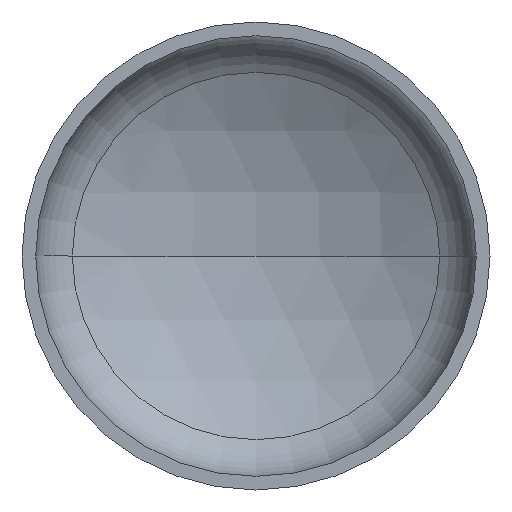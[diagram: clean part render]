
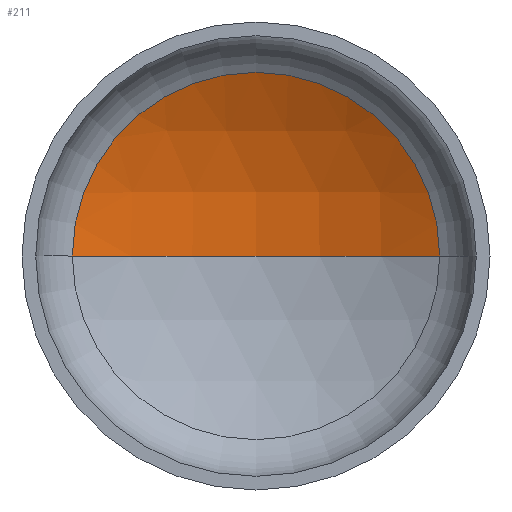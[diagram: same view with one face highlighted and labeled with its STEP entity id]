
A CAD part, front view. The second image highlights one B-rep face of the part: STEP entity #211.
In plain terms, the highlighted spherical face has radius 1040 mm.
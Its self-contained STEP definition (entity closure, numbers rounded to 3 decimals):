
#5 = CARTESIAN_POINT ( 'NONE',  ( 0., 294.291, 0. ) ) ;
#11 = DIRECTION ( 'NONE',  ( -1., 0., 0. ) ) ;
#12 = CARTESIAN_POINT ( 'NONE',  ( 0., -612.022, 0. ) ) ;
#17 = EDGE_LOOP ( 'NONE', ( #126, #49, #133 ) ) ;
#22 = AXIS2_PLACEMENT_3D ( 'NONE', #242, #243, #95 ) ;
#32 = AXIS2_PLACEMENT_3D ( 'NONE', #227, #391, #195 ) ;
#34 = AXIS2_PLACEMENT_3D ( 'NONE', #12, #160, #11 ) ;
#37 = AXIS2_PLACEMENT_3D ( 'NONE', #5, #224, #408 ) ;
#49 = ORIENTED_EDGE ( 'NONE', *, *, #103, .T. ) ;
#52 = CARTESIAN_POINT ( 'NONE',  ( 510.095, 294.291, 0. ) ) ;
#71 = VERTEX_POINT ( 'NONE', #287 ) ;
#83 = VERTEX_POINT ( 'NONE', #228 ) ;
#95 = DIRECTION ( 'NONE',  ( -1., 0., 0. ) ) ;
#100 = EDGE_CURVE ( 'NONE', #108, #71, #318, .T. ) ;
#103 = EDGE_CURVE ( 'NONE', #83, #108, #256, .T. ) ;
#104 = EDGE_CURVE ( 'NONE', #83, #71, #196, .T. ) ;
#108 = VERTEX_POINT ( 'NONE', #52 ) ;
#126 = ORIENTED_EDGE ( 'NONE', *, *, #104, .F. ) ;
#133 = ORIENTED_EDGE ( 'NONE', *, *, #100, .T. ) ;
#160 = DIRECTION ( 'NONE',  ( 0., 0., -1. ) ) ;
#182 = FACE_OUTER_BOUND ( 'NONE', #17, .T. ) ;
#189 = SPHERICAL_SURFACE ( 'NONE', #22, 1040. ) ;
#195 = DIRECTION ( 'NONE',  ( 1., 0., 0. ) ) ;
#196 = CIRCLE ( 'NONE', #32, 1040. ) ;
#211 = ADVANCED_FACE ( 'NONE', ( #182 ), #189, .F. ) ;
#224 = DIRECTION ( 'NONE',  ( 0., -1., 0. ) ) ;
#227 = CARTESIAN_POINT ( 'NONE',  ( 0., -612.022, 0. ) ) ;
#228 = CARTESIAN_POINT ( 'NONE',  ( 0., 427.978, 0. ) ) ;
#242 = CARTESIAN_POINT ( 'NONE',  ( 0., -612.022, 0. ) ) ;
#243 = DIRECTION ( 'NONE',  ( 0., 0., -1. ) ) ;
#256 = CIRCLE ( 'NONE', #34, 1040. ) ;
#287 = CARTESIAN_POINT ( 'NONE',  ( -510.095, 294.291, 0. ) ) ;
#318 = CIRCLE ( 'NONE', #37, 510.095 ) ;
#391 = DIRECTION ( 'NONE',  ( 0., 0., 1. ) ) ;
#408 = DIRECTION ( 'NONE',  ( 1., 0., 0. ) ) ;
